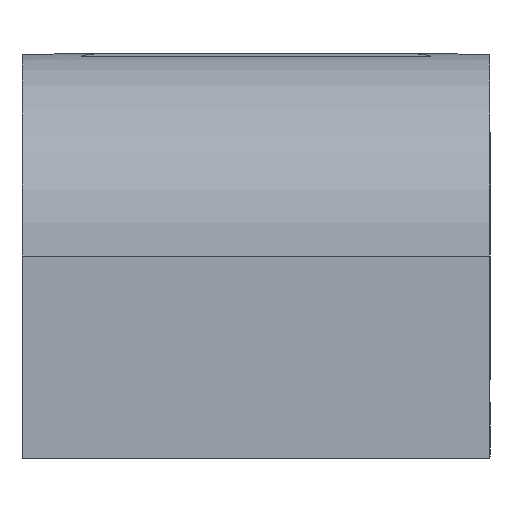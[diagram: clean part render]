
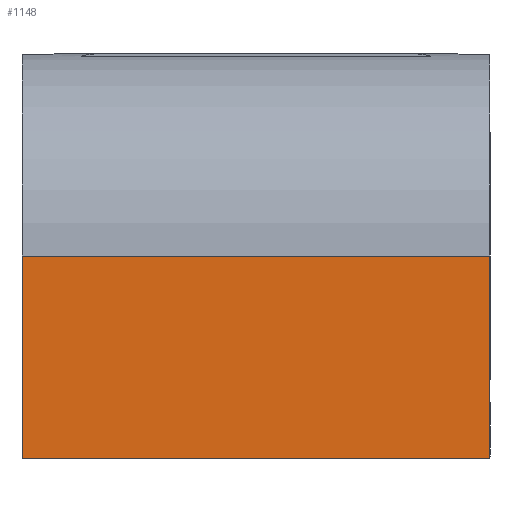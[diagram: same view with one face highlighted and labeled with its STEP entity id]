
A CAD part, left-side view. The second image highlights one B-rep face of the part: STEP entity #1148.
In plain terms, the highlighted planar face has unit normal (-1, 0, 0).
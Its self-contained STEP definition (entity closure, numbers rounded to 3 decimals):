
#43 = PLANE('',#44);
#44 = AXIS2_PLACEMENT_3D('',#45,#46,#47);
#45 = CARTESIAN_POINT('',(-6.4,-7.4,-6.4));
#46 = DIRECTION('',(0.,0.,1.));
#47 = DIRECTION('',(1.,0.,-0.));
#72 = PLANE('',#73);
#73 = AXIS2_PLACEMENT_3D('',#74,#75,#76);
#74 = CARTESIAN_POINT('',(0.,7.4,0.));
#75 = DIRECTION('',(0.,-1.,0.));
#76 = DIRECTION('',(1.,0.,0.));
#166 = VERTEX_POINT('',#167);
#167 = CARTESIAN_POINT('',(-6.4,7.4,-6.4));
#188 = EDGE_CURVE('',#189,#166,#191,.T.);
#189 = VERTEX_POINT('',#190);
#190 = CARTESIAN_POINT('',(-6.4,-7.4,-6.4));
#191 = SURFACE_CURVE('',#192,(#196,#203),.PCURVE_S1.);
#192 = LINE('',#193,#194);
#193 = CARTESIAN_POINT('',(-6.4,-7.4,-6.4));
#194 = VECTOR('',#195,1.);
#195 = DIRECTION('',(-0.,1.,0.));
#196 = PCURVE('',#43,#197);
#197 = DEFINITIONAL_REPRESENTATION('',(#198),#202);
#198 = LINE('',#199,#200);
#199 = CARTESIAN_POINT('',(0.,0.));
#200 = VECTOR('',#201,1.);
#201 = DIRECTION('',(0.,1.));
#202 = ( GEOMETRIC_REPRESENTATION_CONTEXT(2) 
PARAMETRIC_REPRESENTATION_CONTEXT() REPRESENTATION_CONTEXT('2D SPACE',''
  ) );
#203 = PCURVE('',#204,#209);
#204 = PLANE('',#205);
#205 = AXIS2_PLACEMENT_3D('',#206,#207,#208);
#206 = CARTESIAN_POINT('',(-6.4,-7.4,-6.4));
#207 = DIRECTION('',(1.,0.,-0.));
#208 = DIRECTION('',(0.,0.,1.));
#209 = DEFINITIONAL_REPRESENTATION('',(#210),#214);
#210 = LINE('',#211,#212);
#211 = CARTESIAN_POINT('',(0.,0.));
#212 = VECTOR('',#213,1.);
#213 = DIRECTION('',(0.,-1.));
#214 = ( GEOMETRIC_REPRESENTATION_CONTEXT(2) 
PARAMETRIC_REPRESENTATION_CONTEXT() REPRESENTATION_CONTEXT('2D SPACE',''
  ) );
#232 = PLANE('',#233);
#233 = AXIS2_PLACEMENT_3D('',#234,#235,#236);
#234 = CARTESIAN_POINT('',(0.,-7.4,0.));
#235 = DIRECTION('',(0.,-1.,0.));
#236 = DIRECTION('',(1.,0.,0.));
#589 = VERTEX_POINT('',#590);
#590 = CARTESIAN_POINT('',(-6.4,7.4,0.));
#605 = CYLINDRICAL_SURFACE('',#606,6.4);
#606 = AXIS2_PLACEMENT_3D('',#607,#608,#609);
#607 = CARTESIAN_POINT('',(0.,7.4,0.));
#608 = DIRECTION('',(0.,-1.,0.));
#609 = DIRECTION('',(1.,0.,0.));
#617 = EDGE_CURVE('',#166,#589,#618,.T.);
#618 = SURFACE_CURVE('',#619,(#623,#630),.PCURVE_S1.);
#619 = LINE('',#620,#621);
#620 = CARTESIAN_POINT('',(-6.4,7.4,-6.4));
#621 = VECTOR('',#622,1.);
#622 = DIRECTION('',(0.,0.,1.));
#623 = PCURVE('',#72,#624);
#624 = DEFINITIONAL_REPRESENTATION('',(#625),#629);
#625 = LINE('',#626,#627);
#626 = CARTESIAN_POINT('',(-6.4,-6.4));
#627 = VECTOR('',#628,1.);
#628 = DIRECTION('',(0.,1.));
#629 = ( GEOMETRIC_REPRESENTATION_CONTEXT(2) 
PARAMETRIC_REPRESENTATION_CONTEXT() REPRESENTATION_CONTEXT('2D SPACE',''
  ) );
#630 = PCURVE('',#204,#631);
#631 = DEFINITIONAL_REPRESENTATION('',(#632),#636);
#632 = LINE('',#633,#634);
#633 = CARTESIAN_POINT('',(0.,-14.8));
#634 = VECTOR('',#635,1.);
#635 = DIRECTION('',(1.,0.));
#636 = ( GEOMETRIC_REPRESENTATION_CONTEXT(2) 
PARAMETRIC_REPRESENTATION_CONTEXT() REPRESENTATION_CONTEXT('2D SPACE',''
  ) );
#995 = VERTEX_POINT('',#996);
#996 = CARTESIAN_POINT('',(-6.4,-7.4,0.));
#1024 = EDGE_CURVE('',#189,#995,#1025,.T.);
#1025 = SURFACE_CURVE('',#1026,(#1030,#1037),.PCURVE_S1.);
#1026 = LINE('',#1027,#1028);
#1027 = CARTESIAN_POINT('',(-6.4,-7.4,-6.4));
#1028 = VECTOR('',#1029,1.);
#1029 = DIRECTION('',(0.,0.,1.));
#1030 = PCURVE('',#232,#1031);
#1031 = DEFINITIONAL_REPRESENTATION('',(#1032),#1036);
#1032 = LINE('',#1033,#1034);
#1033 = CARTESIAN_POINT('',(-6.4,-6.4));
#1034 = VECTOR('',#1035,1.);
#1035 = DIRECTION('',(0.,1.));
#1036 = ( GEOMETRIC_REPRESENTATION_CONTEXT(2) 
PARAMETRIC_REPRESENTATION_CONTEXT() REPRESENTATION_CONTEXT('2D SPACE',''
  ) );
#1037 = PCURVE('',#204,#1038);
#1038 = DEFINITIONAL_REPRESENTATION('',(#1039),#1043);
#1039 = LINE('',#1040,#1041);
#1040 = CARTESIAN_POINT('',(0.,0.));
#1041 = VECTOR('',#1042,1.);
#1042 = DIRECTION('',(1.,0.));
#1043 = ( GEOMETRIC_REPRESENTATION_CONTEXT(2) 
PARAMETRIC_REPRESENTATION_CONTEXT() REPRESENTATION_CONTEXT('2D SPACE',''
  ) );
#1148 = ADVANCED_FACE('',(#1149),#204,.F.);
#1149 = FACE_BOUND('',#1150,.F.);
#1150 = EDGE_LOOP('',(#1151,#1152,#1153,#1154));
#1151 = ORIENTED_EDGE('',*,*,#1024,.F.);
#1152 = ORIENTED_EDGE('',*,*,#188,.T.);
#1153 = ORIENTED_EDGE('',*,*,#617,.T.);
#1154 = ORIENTED_EDGE('',*,*,#1155,.F.);
#1155 = EDGE_CURVE('',#995,#589,#1156,.T.);
#1156 = SURFACE_CURVE('',#1157,(#1161,#1168),.PCURVE_S1.);
#1157 = LINE('',#1158,#1159);
#1158 = CARTESIAN_POINT('',(-6.4,-7.4,0.));
#1159 = VECTOR('',#1160,1.);
#1160 = DIRECTION('',(-0.,1.,0.));
#1161 = PCURVE('',#204,#1162);
#1162 = DEFINITIONAL_REPRESENTATION('',(#1163),#1167);
#1163 = LINE('',#1164,#1165);
#1164 = CARTESIAN_POINT('',(6.4,0.));
#1165 = VECTOR('',#1166,1.);
#1166 = DIRECTION('',(0.,-1.));
#1167 = ( GEOMETRIC_REPRESENTATION_CONTEXT(2) 
PARAMETRIC_REPRESENTATION_CONTEXT() REPRESENTATION_CONTEXT('2D SPACE',''
  ) );
#1168 = PCURVE('',#605,#1169);
#1169 = DEFINITIONAL_REPRESENTATION('',(#1170),#1173);
#1170 = B_SPLINE_CURVE_WITH_KNOTS('',1,(#1171,#1172),.UNSPECIFIED.,.F.,
  .F.,(2,2),(0.,14.8),.PIECEWISE_BEZIER_KNOTS.);
#1171 = CARTESIAN_POINT('',(9.425,14.8));
#1172 = CARTESIAN_POINT('',(9.425,0.));
#1173 = ( GEOMETRIC_REPRESENTATION_CONTEXT(2) 
PARAMETRIC_REPRESENTATION_CONTEXT() REPRESENTATION_CONTEXT('2D SPACE',''
  ) );
